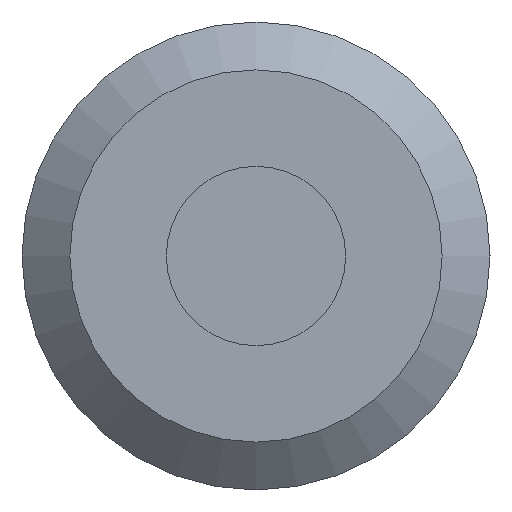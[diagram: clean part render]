
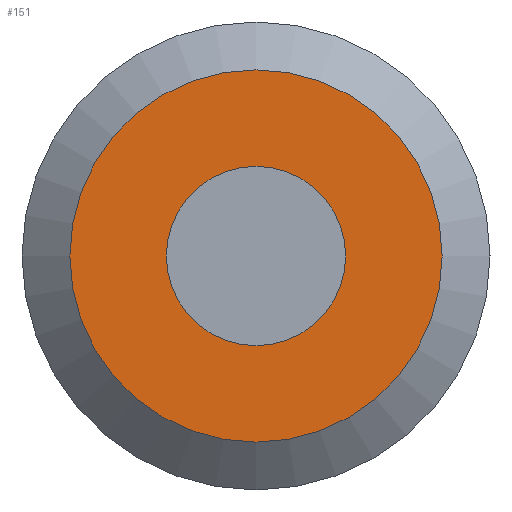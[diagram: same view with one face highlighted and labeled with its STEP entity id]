
A CAD part, left-side view. The second image highlights one B-rep face of the part: STEP entity #151.
In plain terms, the highlighted planar face has unit normal (-1, 0, 0).
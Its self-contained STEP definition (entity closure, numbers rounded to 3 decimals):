
#28=ORIENTED_EDGE('',*,*,#41,.F.);
#29=ORIENTED_EDGE('',*,*,#40,.T.);
#40=EDGE_CURVE('',#47,#47,#54,.T.);
#41=EDGE_CURVE('',#48,#48,#55,.T.);
#47=VERTEX_POINT('',#215);
#48=VERTEX_POINT('',#218);
#54=CIRCLE('',#165,1.15);
#55=CIRCLE('',#167,2.386);
#63=EDGE_LOOP('',(#28));
#64=EDGE_LOOP('',(#29));
#77=FACE_BOUND('',#63,.T.);
#78=FACE_BOUND('',#64,.T.);
#89=PLANE('',#166);
#151=ADVANCED_FACE('',(#77,#78),#89,.F.);
#165=AXIS2_PLACEMENT_3D('',#214,#185,#186);
#166=AXIS2_PLACEMENT_3D('',#216,#187,#188);
#167=AXIS2_PLACEMENT_3D('',#217,#189,#190);
#185=DIRECTION('',(1.,0.,0.));
#186=DIRECTION('',(0.,0.,-1.));
#187=DIRECTION('',(1.,0.,0.));
#188=DIRECTION('',(0.,0.,-1.));
#189=DIRECTION('',(1.,0.,0.));
#190=DIRECTION('',(0.,0.,-1.));
#214=CARTESIAN_POINT('',(0.,0.,0.));
#215=CARTESIAN_POINT('',(0.,0.,-1.15));
#216=CARTESIAN_POINT('',(0.,1.15,0.));
#217=CARTESIAN_POINT('',(0.,0.,0.));
#218=CARTESIAN_POINT('',(0.,0.,-2.386));
